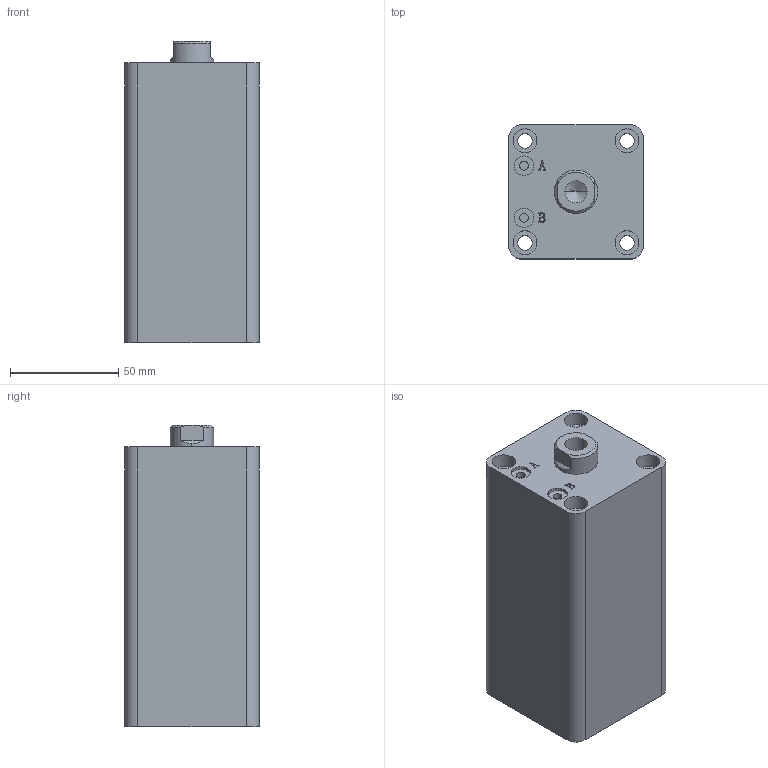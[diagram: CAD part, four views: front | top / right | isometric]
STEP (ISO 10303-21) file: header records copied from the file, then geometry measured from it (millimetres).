
FILE_DESCRIPTION (( 'STEP AP203' ), '1' );
FILE_NAME ('HTB-SDMA32-75N.STEP', '2019-10-07T11:43:51', ( '微软用户' ), ( '微软中国' ), 'SwSTEP 2.0', 'SolidWorks 2012', '' );
FILE_SCHEMA (( 'CONFIG_CONTROL_DESIGN' ));
Length unit declared in the file: millimetre
Products named in the file (3): HTB-SDMA32-75N; HTB-SDMA32-75N活塞杆; HTB-SDMA32-75掛极
Assembly tree (2 placements, depth 2):
  HTB-SDMA32-75N
    HTB-SDMA32-75掛极
    HTB-SDMA32-75N活塞杆
Bounding box: 62 x 62 x 139 mm (x, y, z)
Volume: 434350.1 mm3; surface area: 72930 mm2
Topology: 2 solids, 2 shells, 137 faces, 331 edges, 217 vertices
Faces by surface type: plane 65, cylinder 46, bspline 16, torus 6, cone 4
Entity records: 5070 total; most frequent: CARTESIAN_POINT 1576, ORIENTED_EDGE 658, DIRECTION 647, EDGE_CURVE 329, AXIS2_PLACEMENT_3D 232, VERTEX_POINT 217, VECTOR 183, LINE 183
